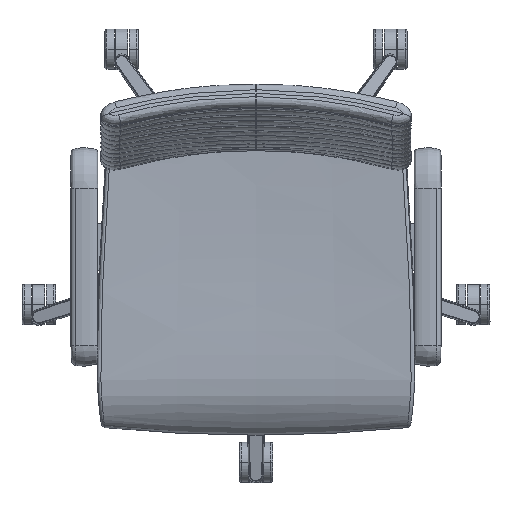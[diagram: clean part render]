
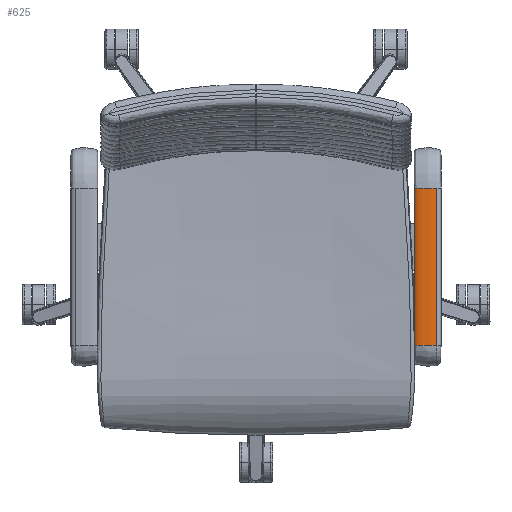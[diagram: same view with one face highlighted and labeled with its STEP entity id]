
A CAD part, top view. The second image highlights one B-rep face of the part: STEP entity #625.
In plain terms, the highlighted free-form (B-spline) face has degree [1, 3] with [2, 9] control points.
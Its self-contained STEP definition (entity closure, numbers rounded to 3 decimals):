
#625=ADVANCED_FACE('',(#1121),#6846,.T.);
#1121=FACE_OUTER_BOUND('',#1617,.T.);
#1617=EDGE_LOOP('',(#2119,#2120,#2121,#2122));
#2119=ORIENTED_EDGE('',*,*,#4196,.T.);
#2120=ORIENTED_EDGE('',*,*,#4194,.F.);
#2121=ORIENTED_EDGE('',*,*,#4197,.T.);
#2122=ORIENTED_EDGE('',*,*,#4195,.T.);
#4194=EDGE_CURVE('',#6169,#6168,#5350,.T.);
#4195=EDGE_CURVE('',#6171,#6170,#5351,.T.);
#4196=EDGE_CURVE('',#6170,#6168,#5352,.T.);
#4197=EDGE_CURVE('',#6169,#6171,#5353,.T.);
#5350=B_SPLINE_CURVE_WITH_KNOTS('',3,(#7667,#7668,#7669,#7670,#7671,#7672,
#7673),.UNSPECIFIED.,.F.,.F.,(4,1,1,1,4),(20.075,30.112,
40.15,50.187,52.794),.UNSPECIFIED.);
#5351=B_SPLINE_CURVE_WITH_KNOTS('',3,(#7674,#7675,#7676,#7677,#7678,#7679,
#7680),.UNSPECIFIED.,.F.,.F.,(4,1,1,1,4),(20.075,30.112,
40.15,50.187,52.794),.UNSPECIFIED.);
#5352=B_SPLINE_CURVE_WITH_KNOTS('',1,(#7681,#7682),.UNSPECIFIED.,.F.,.F.,
(2,2),(52.794,286.4),.UNSPECIFIED.);
#5353=B_SPLINE_CURVE_WITH_KNOTS('',1,(#7683,#7684),.UNSPECIFIED.,.F.,.F.,
(2,2),(432.66,666.266),.UNSPECIFIED.);
#6168=VERTEX_POINT('',#7605);
#6169=VERTEX_POINT('',#7606);
#6170=VERTEX_POINT('',#7607);
#6171=VERTEX_POINT('',#7608);
#6846=B_SPLINE_SURFACE_WITH_KNOTS('',1,3,((#7583,#7584,#7585,#7586,#7587,
#7588,#7589,#7590,#7591),(#7592,#7593,#7594,#7595,#7596,#7597,#7598,#7599,
#7600)),.UNSPECIFIED.,.F.,.F.,.F.,(2,2),(4,1,1,1,1,1,4),(0.,233.606),
(0.,10.037,20.075,30.112,40.15,
50.187,60.225),.UNSPECIFIED.);
#7583=CARTESIAN_POINT('',(274.668,-147.95,640.629));
#7584=CARTESIAN_POINT('',(274.668,-147.95,644.032));
#7585=CARTESIAN_POINT('',(274.668,-147.95,648.629));
#7586=CARTESIAN_POINT('',(269.776,-147.95,651.629));
#7587=CARTESIAN_POINT('',(254.668,-147.95,653.127));
#7588=CARTESIAN_POINT('',(239.56,-147.95,651.629));
#7589=CARTESIAN_POINT('',(234.668,-147.95,648.629));
#7590=CARTESIAN_POINT('',(234.668,-147.95,644.032));
#7591=CARTESIAN_POINT('',(234.668,-147.95,640.629));
#7592=CARTESIAN_POINT('',(274.668,85.656,640.629));
#7593=CARTESIAN_POINT('',(274.668,85.656,644.032));
#7594=CARTESIAN_POINT('',(274.668,85.656,648.629));
#7595=CARTESIAN_POINT('',(269.776,85.656,651.629));
#7596=CARTESIAN_POINT('',(254.668,85.656,653.127));
#7597=CARTESIAN_POINT('',(239.56,85.656,651.629));
#7598=CARTESIAN_POINT('',(234.668,85.656,648.629));
#7599=CARTESIAN_POINT('',(234.668,85.656,644.032));
#7600=CARTESIAN_POINT('',(234.668,85.656,640.629));
#7605=CARTESIAN_POINT('',(234.999,-147.95,646.556));
#7606=CARTESIAN_POINT('',(268.073,-147.95,651.379));
#7607=CARTESIAN_POINT('',(234.999,85.656,646.556));
#7608=CARTESIAN_POINT('',(268.073,85.656,651.379));
#7667=CARTESIAN_POINT('',(268.073,-147.95,651.379));
#7668=CARTESIAN_POINT('',(264.74,-147.95,652.128));
#7669=CARTESIAN_POINT('',(254.668,-147.95,653.127));
#7670=CARTESIAN_POINT('',(239.56,-147.95,651.629));
#7671=CARTESIAN_POINT('',(235.875,-147.95,649.369));
#7672=CARTESIAN_POINT('',(235.115,-147.95,647.079));
#7673=CARTESIAN_POINT('',(234.999,-147.95,646.556));
#7674=CARTESIAN_POINT('',(268.073,85.656,651.379));
#7675=CARTESIAN_POINT('',(264.74,85.656,652.128));
#7676=CARTESIAN_POINT('',(254.668,85.656,653.127));
#7677=CARTESIAN_POINT('',(239.56,85.656,651.629));
#7678=CARTESIAN_POINT('',(235.875,85.656,649.369));
#7679=CARTESIAN_POINT('',(235.115,85.656,647.079));
#7680=CARTESIAN_POINT('',(234.999,85.656,646.556));
#7681=CARTESIAN_POINT('',(234.999,85.656,646.556));
#7682=CARTESIAN_POINT('',(234.999,-147.95,646.556));
#7683=CARTESIAN_POINT('',(268.073,-147.95,651.379));
#7684=CARTESIAN_POINT('',(268.073,85.656,651.379));
